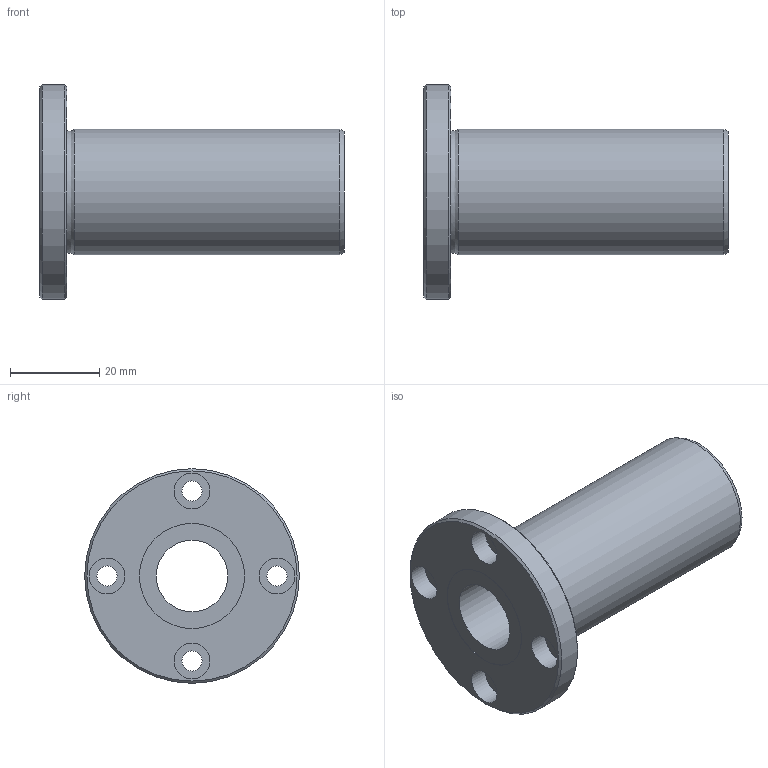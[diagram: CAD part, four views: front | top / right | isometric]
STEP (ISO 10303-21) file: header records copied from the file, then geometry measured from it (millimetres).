
FILE_DESCRIPTION((''),'2;1');
FILE_NAME('D:\製品 (図面)\カタログ用3D\リニアベアリング関連\STEP形式\LFD\LFD16.stp','2010-06-03T09:20:40',('Tsuchiya'),(''),'Autodesk Inventor 10','Autodesk Inventor 10','');
FILE_SCHEMA(('AUTOMOTIVE_DESIGN { 1 0 10303 214 1 1 1 1 }'));
Length unit declared in the file: millimetre
Products named in the file (1): LFD16
Bounding box: 68 x 48 x 48 mm (x, y, z)
Volume: 34240.8 mm3; surface area: 13304.3 mm2
Topology: 1 solids, 1 shells, 26 faces, 47 edges, 30 vertices
Faces by surface type: cylinder 13, plane 9, cone 2, torus 1, bspline 1
Full cylindrical faces by diameter (mm): 4.5 x4, 8 x4, 16 x1, 23.5 x2, 28 x1, 48 x1
Entity records: 665 total; most frequent: CARTESIAN_POINT 149, DIRECTION 112, ORIENTED_EDGE 60, EDGE_LOOP 60, AXIS2_PLACEMENT_3D 56, FACE_BOUND 34, VERTEX_POINT 30, CIRCLE 30
